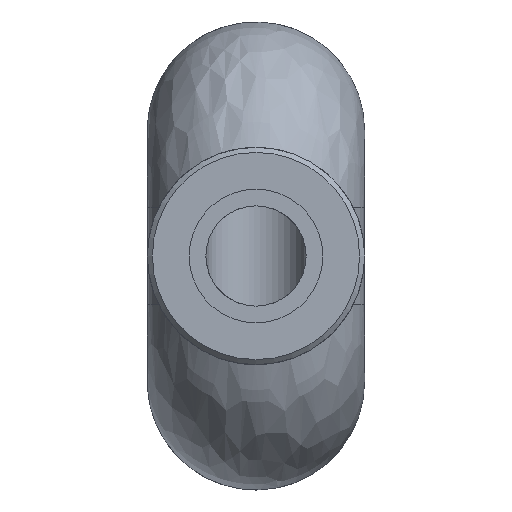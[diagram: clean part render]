
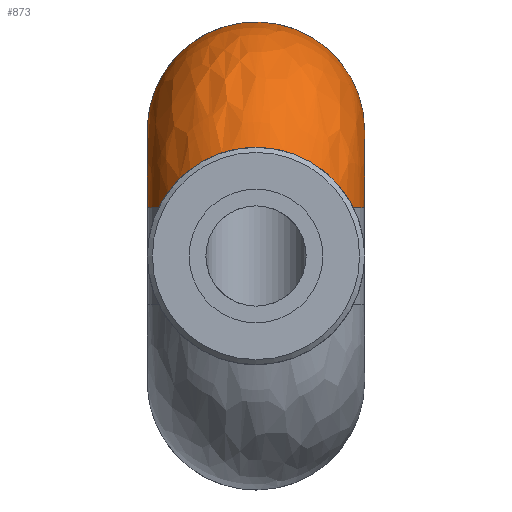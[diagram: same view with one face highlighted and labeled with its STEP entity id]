
A CAD part, front view. The second image highlights one B-rep face of the part: STEP entity #873.
In plain terms, the highlighted free-form (B-spline) face has degree [2, 2] with [9, 3] control points.
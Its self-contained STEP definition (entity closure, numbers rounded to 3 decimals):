
#17=B_SPLINE_CURVE_WITH_KNOTS('',3,(#1608,#1609,#1610,#1611,#1612,#1613,
#1614,#1615,#1616,#1617,#1618,#1619),.UNSPECIFIED.,.F.,.F.,(4,2,2,2,2,4),
(-0.803,-0.757,-0.652,-0.483,
-0.244,0.),.UNSPECIFIED.);
#18=B_SPLINE_CURVE_WITH_KNOTS('',3,(#1622,#1623,#1624,#1625,#1626,#1627,
#1628,#1629,#1630,#1631,#1632,#1633),.UNSPECIFIED.,.F.,.F.,(4,2,2,2,2,4),
(-1.596,-1.312,-1.12,-0.949,
-0.846,-0.803),.UNSPECIFIED.);
#28=(
BOUNDED_SURFACE()
B_SPLINE_SURFACE(2,2,((#1674,#1675,#1676),(#1677,#1678,#1679),(#1680,#1681,
#1682),(#1683,#1684,#1685),(#1686,#1687,#1688),(#1689,#1690,#1691),(#1692,
#1693,#1694),(#1695,#1696,#1697),(#1698,#1699,#1700)),.UNSPECIFIED.,.F.,
 .F.,.F.)
B_SPLINE_SURFACE_WITH_KNOTS((3,2,2,2,3),(3,3),(-2.357,-1.179,
0.,1.179,2.357),(-3.142,-1.571),
 .UNSPECIFIED.)
GEOMETRIC_REPRESENTATION_ITEM()
RATIONAL_B_SPLINE_SURFACE(((1.,0.707,1.),(0.831,
0.588,0.831),(1.,0.707,1.),(0.831,
0.588,0.831),(1.,0.707,1.),(0.831,
0.588,0.831),(1.,0.707,1.),(0.831,
0.588,0.831),(1.,0.707,1.)))
REPRESENTATION_ITEM('')
SURFACE()
);
#105=FACE_OUTER_BOUND('',#172,.T.);
#172=EDGE_LOOP('',(#718,#719,#720,#721,#722,#723));
#328=CIRCLE('',#996,6.5);
#331=CIRCLE('',#1002,6.5);
#332=CIRCLE('',#1004,6.5);
#333=CIRCLE('',#1005,6.5);
#410=VERTEX_POINT('',#1604);
#412=VERTEX_POINT('',#1607);
#413=VERTEX_POINT('',#1621);
#417=VERTEX_POINT('',#1661);
#420=VERTEX_POINT('',#1671);
#421=VERTEX_POINT('',#1701);
#514=EDGE_CURVE('',#412,#410,#17,.T.);
#516=EDGE_CURVE('',#413,#412,#18,.T.);
#522=EDGE_CURVE('',#417,#410,#328,.T.);
#527=EDGE_CURVE('',#413,#420,#331,.T.);
#529=EDGE_CURVE('',#417,#421,#332,.T.);
#530=EDGE_CURVE('',#421,#420,#333,.T.);
#718=ORIENTED_EDGE('',*,*,#516,.T.);
#719=ORIENTED_EDGE('',*,*,#514,.T.);
#720=ORIENTED_EDGE('',*,*,#522,.F.);
#721=ORIENTED_EDGE('',*,*,#529,.T.);
#722=ORIENTED_EDGE('',*,*,#530,.T.);
#723=ORIENTED_EDGE('',*,*,#527,.F.);
#873=ADVANCED_FACE('',(#105),#28,.F.);
#996=AXIS2_PLACEMENT_3D('',#1663,#1235,#1236);
#1002=AXIS2_PLACEMENT_3D('',#1672,#1247,#1248);
#1004=AXIS2_PLACEMENT_3D('',#1702,#1251,#1252);
#1005=AXIS2_PLACEMENT_3D('',#1703,#1253,#1254);
#1235=DIRECTION('center_axis',(0.,0.,-1.));
#1236=DIRECTION('ref_axis',(1.,0.,0.));
#1247=DIRECTION('center_axis',(0.,0.,-1.));
#1248=DIRECTION('ref_axis',(1.,0.,0.));
#1251=DIRECTION('center_axis',(0.,-1.,0.));
#1252=DIRECTION('ref_axis',(1.,0.,0.));
#1253=DIRECTION('center_axis',(0.,-1.,0.));
#1254=DIRECTION('ref_axis',(1.,0.,0.));
#1604=CARTESIAN_POINT('',(5.817,-10.,2.9));
#1607=CARTESIAN_POINT('',(0.,-13.,6.5));
#1608=CARTESIAN_POINT('Ctrl Pts',(0.,-13.,6.5));
#1609=CARTESIAN_POINT('Ctrl Pts',(0.155,-13.,6.5));
#1610=CARTESIAN_POINT('Ctrl Pts',(0.309,-12.996,6.494));
#1611=CARTESIAN_POINT('Ctrl Pts',(0.81,-12.97,6.459));
#1612=CARTESIAN_POINT('Ctrl Pts',(1.152,-12.933,6.406));
#1613=CARTESIAN_POINT('Ctrl Pts',(2.024,-12.785,6.201));
#1614=CARTESIAN_POINT('Ctrl Pts',(2.533,-12.645,6.009));
#1615=CARTESIAN_POINT('Ctrl Pts',(3.667,-12.201,5.419));
#1616=CARTESIAN_POINT('Ctrl Pts',(4.236,-11.858,4.977));
#1617=CARTESIAN_POINT('Ctrl Pts',(5.182,-11.026,3.984));
#1618=CARTESIAN_POINT('Ctrl Pts',(5.547,-10.541,3.441));
#1619=CARTESIAN_POINT('Ctrl Pts',(5.817,-10.,2.9));
#1621=CARTESIAN_POINT('',(-5.817,-10.,2.9));
#1622=CARTESIAN_POINT('Ctrl Pts',(-5.817,-10.,2.9));
#1623=CARTESIAN_POINT('Ctrl Pts',(-5.476,-10.684,3.584));
#1624=CARTESIAN_POINT('Ctrl Pts',(-4.999,-11.247,4.237));
#1625=CARTESIAN_POINT('Ctrl Pts',(-3.977,-12.008,5.171));
#1626=CARTESIAN_POINT('Ctrl Pts',(-3.503,-12.268,5.508));
#1627=CARTESIAN_POINT('Ctrl Pts',(-2.492,-12.658,6.027));
#1628=CARTESIAN_POINT('Ctrl Pts',(-1.976,-12.797,6.217));
#1629=CARTESIAN_POINT('Ctrl Pts',(-1.101,-12.939,6.415));
#1630=CARTESIAN_POINT('Ctrl Pts',(-0.764,-12.974,
6.464));
#1631=CARTESIAN_POINT('Ctrl Pts',(-0.281,-12.997,
6.495));
#1632=CARTESIAN_POINT('Ctrl Pts',(-0.141,-13.,6.5));
#1633=CARTESIAN_POINT('Ctrl Pts',(0.,-13.,6.5));
#1661=CARTESIAN_POINT('',(4.592,-2.5,2.9));
#1663=CARTESIAN_POINT('Origin',(0.,-7.1,2.9));
#1671=CARTESIAN_POINT('',(-4.592,-2.5,2.9));
#1672=CARTESIAN_POINT('Origin',(0.,-7.1,2.9));
#1674=CARTESIAN_POINT('Ctrl Pts',(-4.592,-2.5,2.9));
#1675=CARTESIAN_POINT('Ctrl Pts',(-4.592,-2.5,2.9));
#1676=CARTESIAN_POINT('Ctrl Pts',(-4.592,-2.5,2.9));
#1677=CARTESIAN_POINT('Ctrl Pts',(-7.667,-2.5,5.97));
#1678=CARTESIAN_POINT('Ctrl Pts',(-7.667,-5.57,5.97));
#1679=CARTESIAN_POINT('Ctrl Pts',(-7.667,-5.57,2.9));
#1680=CARTESIAN_POINT('Ctrl Pts',(-6.006,-2.5,9.985));
#1681=CARTESIAN_POINT('Ctrl Pts',(-6.006,-9.585,9.985));
#1682=CARTESIAN_POINT('Ctrl Pts',(-6.006,-9.585,2.9));
#1683=CARTESIAN_POINT('Ctrl Pts',(-4.345,-2.5,14.));
#1684=CARTESIAN_POINT('Ctrl Pts',(-4.345,-13.6,14.));
#1685=CARTESIAN_POINT('Ctrl Pts',(-4.345,-13.6,2.9));
#1686=CARTESIAN_POINT('Ctrl Pts',(0.,-2.5,14.));
#1687=CARTESIAN_POINT('Ctrl Pts',(0.,-13.6,14.));
#1688=CARTESIAN_POINT('Ctrl Pts',(0.,-13.6,2.9));
#1689=CARTESIAN_POINT('Ctrl Pts',(4.345,-2.5,14.));
#1690=CARTESIAN_POINT('Ctrl Pts',(4.345,-13.6,14.));
#1691=CARTESIAN_POINT('Ctrl Pts',(4.345,-13.6,2.9));
#1692=CARTESIAN_POINT('Ctrl Pts',(6.006,-2.5,9.985));
#1693=CARTESIAN_POINT('Ctrl Pts',(6.006,-9.585,9.985));
#1694=CARTESIAN_POINT('Ctrl Pts',(6.006,-9.585,2.9));
#1695=CARTESIAN_POINT('Ctrl Pts',(7.667,-2.5,5.97));
#1696=CARTESIAN_POINT('Ctrl Pts',(7.667,-5.57,5.97));
#1697=CARTESIAN_POINT('Ctrl Pts',(7.667,-5.57,2.9));
#1698=CARTESIAN_POINT('Ctrl Pts',(4.592,-2.5,2.9));
#1699=CARTESIAN_POINT('Ctrl Pts',(4.592,-2.5,2.9));
#1700=CARTESIAN_POINT('Ctrl Pts',(4.592,-2.5,2.9));
#1701=CARTESIAN_POINT('',(6.5,-2.5,7.5));
#1702=CARTESIAN_POINT('Origin',(0.,-2.5,7.5));
#1703=CARTESIAN_POINT('Origin',(0.,-2.5,7.5));
